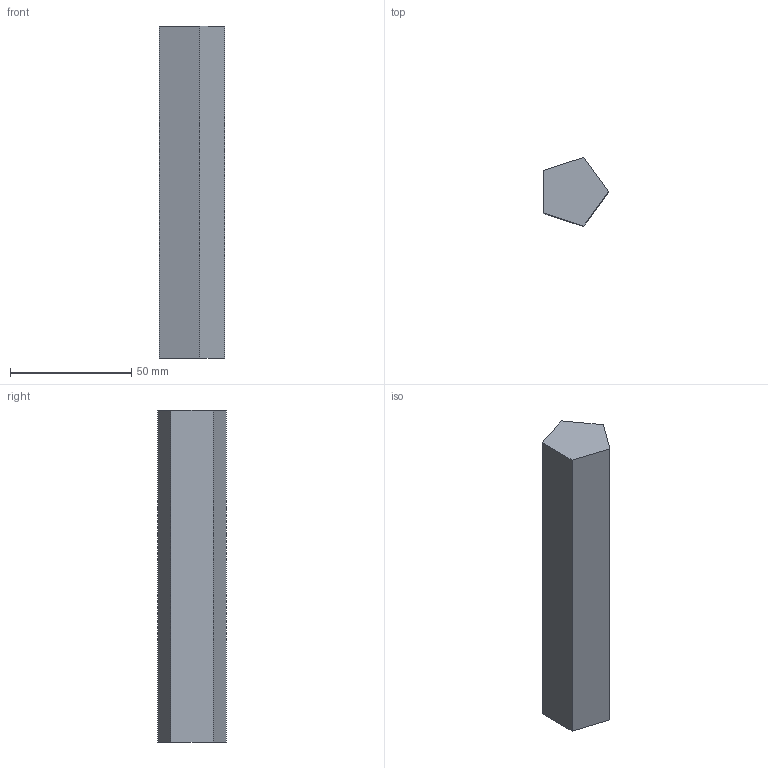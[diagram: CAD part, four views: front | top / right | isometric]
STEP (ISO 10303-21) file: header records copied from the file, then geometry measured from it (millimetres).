
FILE_DESCRIPTION(('Mechanical CAD reference from nasji.com'),'2;1');
FILE_NAME('NASJI.step','',(''),(''),'','NASJI distribution','');
FILE_SCHEMA(('AUTOMOTIVE_DESIGN { 1 0 10303 214 1 1 1 1 }'));
Length unit declared in the file: millimetre
Products named in the file (1): Open CASCADE STEP translator 7.8 248
Bounding box: 26.94 x 28.32 x 137 mm (x, y, z)
Volume: 72219.8 mm3; surface area: 13044.7 mm2
Topology: 1 solids, 1 shells, 7 faces, 15 edges, 10 vertices
Faces by surface type: plane 7
Entity records: 394 total; most frequent: CARTESIAN_POINT 63, DIRECTION 61, LINE 45, VECTOR 45, ORIENTED_EDGE 30, PCURVE 30, DEFINITIONAL_REPRESENTATION 30, EDGE_CURVE 15
